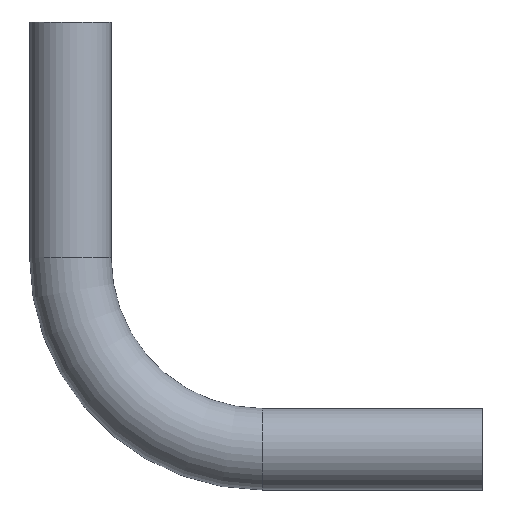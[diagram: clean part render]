
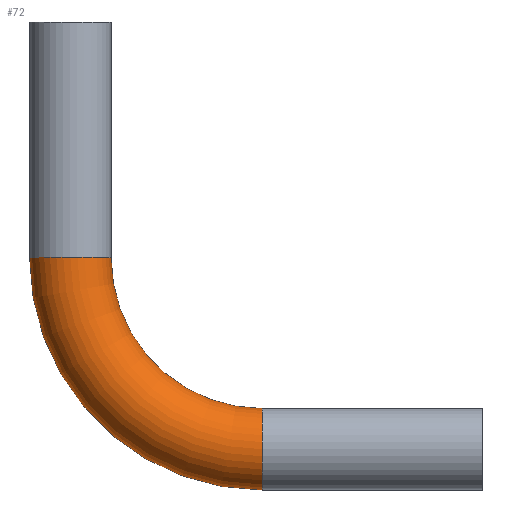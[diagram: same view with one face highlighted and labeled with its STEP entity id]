
A CAD part, top view. The second image highlights one B-rep face of the part: STEP entity #72.
In plain terms, the highlighted toroidal (fillet/blend) face has major radius 127 mm and minor radius 27 mm.
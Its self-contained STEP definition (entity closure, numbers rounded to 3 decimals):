
#15 = AXIS2_PLACEMENT_3D ( 'NONE', #217, #219, #214 ) ;
#16 = TOROIDAL_SURFACE ( 'NONE', #15, 127., 27. ) ;
#24 = CIRCLE ( 'NONE', #26, 154. ) ;
#26 = AXIS2_PLACEMENT_3D ( 'NONE', #127, #126, #125 ) ;
#35 = CIRCLE ( 'NONE', #40, 27. ) ;
#40 = AXIS2_PLACEMENT_3D ( 'NONE', #144, #143, #142 ) ;
#54 = DIRECTION ( 'NONE',  ( 1., 0., 0. ) ) ;
#55 = DIRECTION ( 'NONE',  ( 0., 0., 1. ) ) ;
#56 = CARTESIAN_POINT ( 'NONE',  ( 127., 127., 0. ) ) ;
#72 = ADVANCED_FACE ( 'NONE', ( #218 ), #16, .T. ) ;
#84 = EDGE_CURVE ( 'NONE', #198, #284, #35, .T. ) ;
#93 = EDGE_CURVE ( 'NONE', #198, #293, #24, .T. ) ;
#95 = EDGE_CURVE ( 'NONE', #293, #228, #185, .T. ) ;
#97 = EDGE_CURVE ( 'NONE', #284, #228, #186, .T. ) ;
#120 = DIRECTION ( 'NONE',  ( 0., 0., 1. ) ) ;
#121 = DIRECTION ( 'NONE',  ( -1., 0., 0. ) ) ;
#122 = CARTESIAN_POINT ( 'NONE',  ( 127., 0., 0. ) ) ;
#125 = DIRECTION ( 'NONE',  ( 1., 0., 0. ) ) ;
#126 = DIRECTION ( 'NONE',  ( 0., 0., 1. ) ) ;
#127 = CARTESIAN_POINT ( 'NONE',  ( 127., 127., 0. ) ) ;
#142 = DIRECTION ( 'NONE',  ( 0., 0., 1. ) ) ;
#143 = DIRECTION ( 'NONE',  ( 0., 1., 0. ) ) ;
#144 = CARTESIAN_POINT ( 'NONE',  ( 0., 127., 0. ) ) ;
#180 = AXIS2_PLACEMENT_3D ( 'NONE', #122, #121, #120 ) ;
#185 = CIRCLE ( 'NONE', #180, 27. ) ;
#186 = CIRCLE ( 'NONE', #188, 100. ) ;
#188 = AXIS2_PLACEMENT_3D ( 'NONE', #56, #55, #54 ) ;
#198 = VERTEX_POINT ( 'NONE', #350 ) ;
#214 = DIRECTION ( 'NONE',  ( 1., 0., 0. ) ) ;
#217 = CARTESIAN_POINT ( 'NONE',  ( 127., 127., 0. ) ) ;
#218 = FACE_OUTER_BOUND ( 'NONE', #245, .T. ) ;
#219 = DIRECTION ( 'NONE',  ( 0., 0., 1. ) ) ;
#228 = VERTEX_POINT ( 'NONE', #345 ) ;
#245 = EDGE_LOOP ( 'NONE', ( #288, #274, #257, #253 ) ) ;
#253 = ORIENTED_EDGE ( 'NONE', *, *, #97, .F. ) ;
#257 = ORIENTED_EDGE ( 'NONE', *, *, #95, .T. ) ;
#274 = ORIENTED_EDGE ( 'NONE', *, *, #93, .T. ) ;
#284 = VERTEX_POINT ( 'NONE', #355 ) ;
#288 = ORIENTED_EDGE ( 'NONE', *, *, #84, .F. ) ;
#293 = VERTEX_POINT ( 'NONE', #359 ) ;
#345 = CARTESIAN_POINT ( 'NONE',  ( 127., 27., 0. ) ) ;
#350 = CARTESIAN_POINT ( 'NONE',  ( -27., 127., 0. ) ) ;
#355 = CARTESIAN_POINT ( 'NONE',  ( 27., 127., 0. ) ) ;
#359 = CARTESIAN_POINT ( 'NONE',  ( 127., -27., 0. ) ) ;
